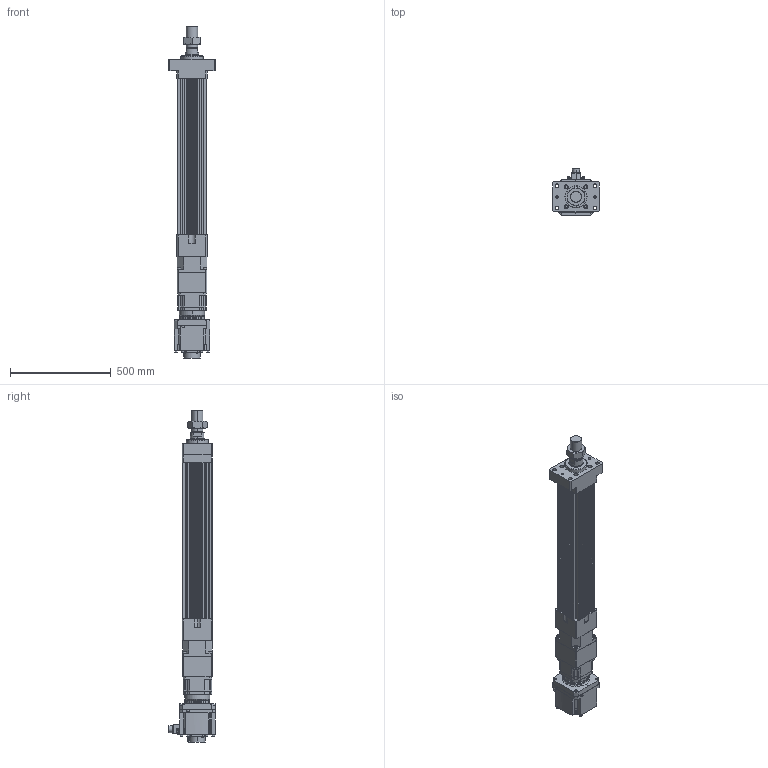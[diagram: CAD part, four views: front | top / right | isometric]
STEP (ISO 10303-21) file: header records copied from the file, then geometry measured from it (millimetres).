
FILE_DESCRIPTION (( 'STEP AP203' ), '1' );
FILE_NAME ('HES150NS(HS)-S500-W035G00-M-FM.STEP', '2023-02-01T04:42:59', ( 'tms' ), ( '' ), 'SwSTEP 2.0', 'SolidWorks 2013', '' );
FILE_SCHEMA (( 'CONFIG_CONTROL_DESIGN' ));
Length unit declared in the file: millimetre
Products named in the file (9): HES150 ROD M ST500; HG-SR352; P1301500001; AB142-003[HG-SR352]; AB1421; HES150-S500-G142-FM; M56X2.0P; HES150NS(HS)-S500-W035G00-M-FM; P0403500801
Assembly tree (8 placements, depth 3):
  HES150NS(HS)-S500-W035G00-M-FM
    HES150-S500-G142-FM
    HES150 ROD M ST500
    M56X2.0P
    AB142-003[HG-SR352]
      AB1421
      P1301500001
      P0403500801
    HG-SR352
Bounding box: 230 x 228.85 x 1647.5 mm (x, y, z)
Volume: 18835605.4 mm3; surface area: 2044437.6 mm2
Topology: 5 solids, 23 shells, 1508 faces, 3908 edges, 2538 vertices
Faces by surface type: cylinder 687, plane 587, cone 152, bspline 76, torus 6
Entity records: 55082 total; most frequent: CARTESIAN_POINT 16753, DIRECTION 8014, ORIENTED_EDGE 7718, EDGE_CURVE 3881, AXIS2_PLACEMENT_3D 3024, VERTEX_POINT 2538, LINE 1966, VECTOR 1966
